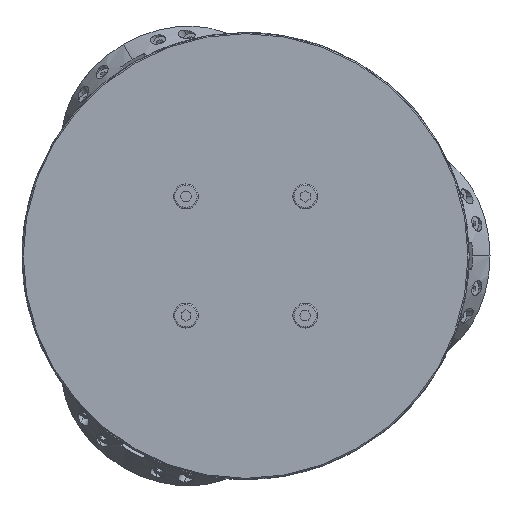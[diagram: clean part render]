
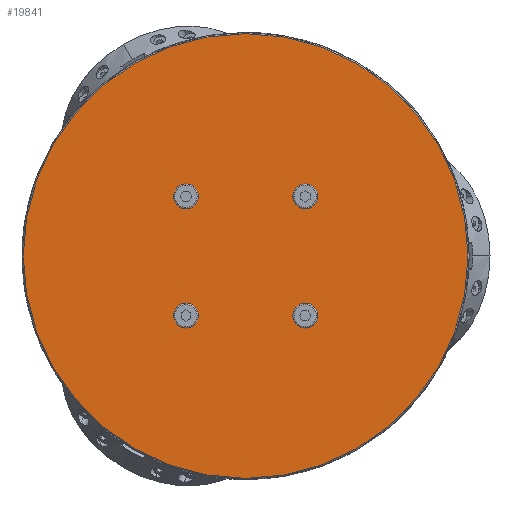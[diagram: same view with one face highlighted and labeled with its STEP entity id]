
A CAD part, front view. The second image highlights one B-rep face of the part: STEP entity #19841.
In plain terms, the highlighted planar face has unit normal (0, -1, 0).
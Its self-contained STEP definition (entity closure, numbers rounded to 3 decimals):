
#304 = CARTESIAN_POINT ( 'NONE',  ( -48., 0., 40. ) ) ;
#600 = DIRECTION ( 'NONE',  ( 0., 0., -1. ) ) ;
#640 = CARTESIAN_POINT ( 'NONE',  ( -48., 0., 56. ) ) ;
#1040 = VERTEX_POINT ( 'NONE', #640 ) ;
#1042 = CARTESIAN_POINT ( 'NONE',  ( 0., 0., 0. ) ) ;
#2892 = AXIS2_PLACEMENT_3D ( 'NONE', #32063, #13588, #39122 ) ;
#2961 = AXIS2_PLACEMENT_3D ( 'NONE', #1042, #71584, #20742 ) ;
#3315 = ORIENTED_EDGE ( 'NONE', *, *, #56274, .F. ) ;
#3752 = VERTEX_POINT ( 'NONE', #66832 ) ;
#4609 = EDGE_CURVE ( 'NONE', #81755, #3752, #77142, .T. ) ;
#5672 = EDGE_CURVE ( 'NONE', #59733, #19945, #54608, .T. ) ;
#5767 = CIRCLE ( 'NONE', #16329, 179. ) ;
#7042 = EDGE_CURVE ( 'NONE', #32137, #81763, #56233, .T. ) ;
#7297 = FACE_BOUND ( 'NONE', #53932, .T. ) ;
#8041 = AXIS2_PLACEMENT_3D ( 'NONE', #18639, #69101, #600 ) ;
#8819 = VERTEX_POINT ( 'NONE', #27327 ) ;
#9579 = AXIS2_PLACEMENT_3D ( 'NONE', #21626, #77906, #52509 ) ;
#10636 = AXIS2_PLACEMENT_3D ( 'NONE', #54816, #80157, #68077 ) ;
#11009 = VERTEX_POINT ( 'NONE', #304 ) ;
#13182 = AXIS2_PLACEMENT_3D ( 'NONE', #29334, #53930, #35539 ) ;
#13317 = CARTESIAN_POINT ( 'NONE',  ( -48., 0., -56. ) ) ;
#13588 = DIRECTION ( 'NONE',  ( 0., -1., 0. ) ) ;
#14022 = FACE_BOUND ( 'NONE', #63193, .T. ) ;
#14354 = ORIENTED_EDGE ( 'NONE', *, *, #76916, .T. ) ;
#15112 = CARTESIAN_POINT ( 'NONE',  ( 48., 0., -48. ) ) ;
#15278 = PLANE ( 'NONE',  #2961 ) ;
#16329 = AXIS2_PLACEMENT_3D ( 'NONE', #74569, #61277, #42519 ) ;
#17213 = ORIENTED_EDGE ( 'NONE', *, *, #5672, .F. ) ;
#17665 = ORIENTED_EDGE ( 'NONE', *, *, #7042, .F. ) ;
#17859 = DIRECTION ( 'NONE',  ( 0., -1., 0. ) ) ;
#18639 = CARTESIAN_POINT ( 'NONE',  ( 48., 0., 48. ) ) ;
#19700 = EDGE_CURVE ( 'NONE', #8819, #43258, #5767, .T. ) ;
#19841 = ADVANCED_FACE ( 'NONE', ( #45823, #14022, #7297, #26618, #39978 ), #15278, .F. ) ;
#19945 = VERTEX_POINT ( 'NONE', #29540 ) ;
#20742 = DIRECTION ( 'NONE',  ( 0., 0., 1. ) ) ;
#21501 = ORIENTED_EDGE ( 'NONE', *, *, #30181, .F. ) ;
#21626 = CARTESIAN_POINT ( 'NONE',  ( 48., 0., -48. ) ) ;
#22697 = DIRECTION ( 'NONE',  ( 0., -1., 0. ) ) ;
#24973 = DIRECTION ( 'NONE',  ( 0., 0., 1. ) ) ;
#26618 = FACE_BOUND ( 'NONE', #41177, .T. ) ;
#27327 = CARTESIAN_POINT ( 'NONE',  ( 0., 0., 179. ) ) ;
#28073 = ORIENTED_EDGE ( 'NONE', *, *, #57009, .F. ) ;
#28097 = CIRCLE ( 'NONE', #10636, 179. ) ;
#29189 = CARTESIAN_POINT ( 'NONE',  ( 48., 0., 56. ) ) ;
#29334 = CARTESIAN_POINT ( 'NONE',  ( -48., 0., -48. ) ) ;
#29540 = CARTESIAN_POINT ( 'NONE',  ( -48., 0., -40. ) ) ;
#30181 = EDGE_CURVE ( 'NONE', #81763, #32137, #49416, .T. ) ;
#30768 = ORIENTED_EDGE ( 'NONE', *, *, #4609, .F. ) ;
#32063 = CARTESIAN_POINT ( 'NONE',  ( -48., 0., 48. ) ) ;
#32137 = VERTEX_POINT ( 'NONE', #29189 ) ;
#32363 = EDGE_CURVE ( 'NONE', #11009, #1040, #40381, .T. ) ;
#33206 = ORIENTED_EDGE ( 'NONE', *, *, #32363, .F. ) ;
#34757 = DIRECTION ( 'NONE',  ( 0., -1., 0. ) ) ;
#35539 = DIRECTION ( 'NONE',  ( 0., 0., 1. ) ) ;
#36177 = DIRECTION ( 'NONE',  ( 0., -1., 0. ) ) ;
#38919 = CARTESIAN_POINT ( 'NONE',  ( 48., 0., 40. ) ) ;
#39122 = DIRECTION ( 'NONE',  ( 1., 0., 0. ) ) ;
#39978 = FACE_OUTER_BOUND ( 'NONE', #60561, .T. ) ;
#40381 = CIRCLE ( 'NONE', #2892, 8. ) ;
#41177 = EDGE_LOOP ( 'NONE', ( #21501, #17665 ) ) ;
#42519 = DIRECTION ( 'NONE',  ( 0., 0., 1. ) ) ;
#43258 = VERTEX_POINT ( 'NONE', #74492 ) ;
#45823 = FACE_BOUND ( 'NONE', #46241, .T. ) ;
#46241 = EDGE_LOOP ( 'NONE', ( #30768, #28073 ) ) ;
#46955 = DIRECTION ( 'NONE',  ( 1., 0., 0. ) ) ;
#48247 = AXIS2_PLACEMENT_3D ( 'NONE', #54571, #36177, #60390 ) ;
#49416 = CIRCLE ( 'NONE', #8041, 8. ) ;
#52157 = AXIS2_PLACEMENT_3D ( 'NONE', #81243, #17859, #24973 ) ;
#52509 = DIRECTION ( 'NONE',  ( -1., 0., 0. ) ) ;
#53602 = CARTESIAN_POINT ( 'NONE',  ( -48., 0., 48. ) ) ;
#53930 = DIRECTION ( 'NONE',  ( 0., -1., 0. ) ) ;
#53932 = EDGE_LOOP ( 'NONE', ( #33206, #81941 ) ) ;
#54571 = CARTESIAN_POINT ( 'NONE',  ( 48., 0., 48. ) ) ;
#54608 = CIRCLE ( 'NONE', #13182, 8. ) ;
#54816 = CARTESIAN_POINT ( 'NONE',  ( 0., 0., 0. ) ) ;
#55851 = AXIS2_PLACEMENT_3D ( 'NONE', #15112, #34757, #78111 ) ;
#56233 = CIRCLE ( 'NONE', #48247, 8. ) ;
#56274 = EDGE_CURVE ( 'NONE', #19945, #59733, #65411, .T. ) ;
#57009 = EDGE_CURVE ( 'NONE', #3752, #81755, #76226, .T. ) ;
#59733 = VERTEX_POINT ( 'NONE', #13317 ) ;
#60390 = DIRECTION ( 'NONE',  ( 0., 0., -1. ) ) ;
#60561 = EDGE_LOOP ( 'NONE', ( #69949, #14354 ) ) ;
#61277 = DIRECTION ( 'NONE',  ( 0., -1., 0. ) ) ;
#63193 = EDGE_LOOP ( 'NONE', ( #17213, #3315 ) ) ;
#64051 = AXIS2_PLACEMENT_3D ( 'NONE', #53602, #22697, #46955 ) ;
#65411 = CIRCLE ( 'NONE', #52157, 8. ) ;
#66832 = CARTESIAN_POINT ( 'NONE',  ( 48., 0., -40. ) ) ;
#68077 = DIRECTION ( 'NONE',  ( 0., 0., 1. ) ) ;
#68211 = CIRCLE ( 'NONE', #64051, 8. ) ;
#69101 = DIRECTION ( 'NONE',  ( 0., -1., 0. ) ) ;
#69949 = ORIENTED_EDGE ( 'NONE', *, *, #19700, .T. ) ;
#70086 = EDGE_CURVE ( 'NONE', #1040, #11009, #68211, .T. ) ;
#70534 = CARTESIAN_POINT ( 'NONE',  ( 48., 0., -56. ) ) ;
#71584 = DIRECTION ( 'NONE',  ( 0., 1., 0. ) ) ;
#74492 = CARTESIAN_POINT ( 'NONE',  ( 0., 0., -179. ) ) ;
#74569 = CARTESIAN_POINT ( 'NONE',  ( 0., 0., 0. ) ) ;
#76226 = CIRCLE ( 'NONE', #9579, 8. ) ;
#76916 = EDGE_CURVE ( 'NONE', #43258, #8819, #28097, .T. ) ;
#77142 = CIRCLE ( 'NONE', #55851, 8. ) ;
#77906 = DIRECTION ( 'NONE',  ( 0., -1., 0. ) ) ;
#78111 = DIRECTION ( 'NONE',  ( -1., 0., 0. ) ) ;
#80157 = DIRECTION ( 'NONE',  ( 0., -1., 0. ) ) ;
#81243 = CARTESIAN_POINT ( 'NONE',  ( -48., 0., -48. ) ) ;
#81755 = VERTEX_POINT ( 'NONE', #70534 ) ;
#81763 = VERTEX_POINT ( 'NONE', #38919 ) ;
#81941 = ORIENTED_EDGE ( 'NONE', *, *, #70086, .F. ) ;
